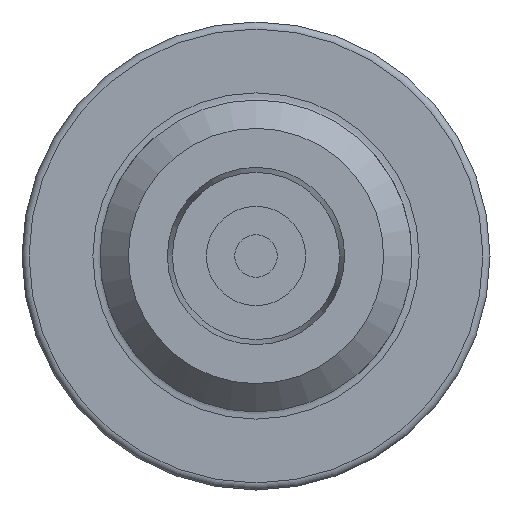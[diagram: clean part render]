
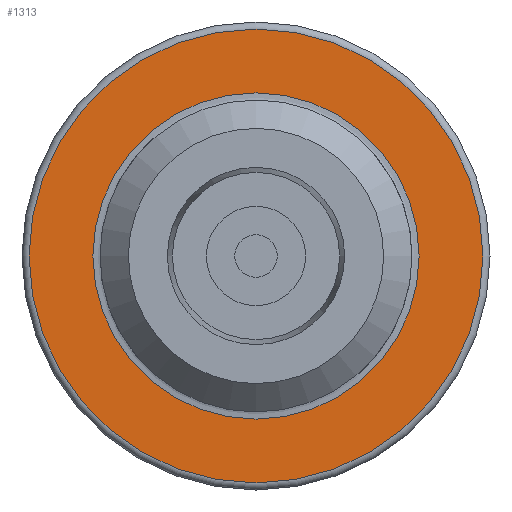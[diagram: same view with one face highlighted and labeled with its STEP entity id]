
A CAD part, front view. The second image highlights one B-rep face of the part: STEP entity #1313.
In plain terms, the highlighted planar face has unit normal (0, -1, 0).
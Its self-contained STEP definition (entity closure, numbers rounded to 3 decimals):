
#90=FACE_BOUND('',#242,.T.);
#107=PLANE('',#1517);
#154=FACE_OUTER_BOUND('',#241,.T.);
#241=EDGE_LOOP('',(#952));
#242=EDGE_LOOP('',(#953));
#495=CIRCLE('',#1515,16.);
#497=CIRCLE('',#1518,11.5);
#597=VERTEX_POINT('',#2201);
#598=VERTEX_POINT('',#2206);
#732=EDGE_CURVE('',#597,#597,#495,.T.);
#734=EDGE_CURVE('',#598,#598,#497,.T.);
#952=ORIENTED_EDGE('',*,*,#732,.F.);
#953=ORIENTED_EDGE('',*,*,#734,.F.);
#1313=ADVANCED_FACE('',(#154,#90),#107,.T.);
#1515=AXIS2_PLACEMENT_3D('',#2203,#1758,#1759);
#1517=AXIS2_PLACEMENT_3D('',#2205,#1762,#1763);
#1518=AXIS2_PLACEMENT_3D('',#2207,#1764,#1765);
#1758=DIRECTION('center_axis',(0.,1.,0.));
#1759=DIRECTION('ref_axis',(1.,0.,0.));
#1762=DIRECTION('center_axis',(0.,-1.,0.));
#1763=DIRECTION('ref_axis',(0.,0.,-1.));
#1764=DIRECTION('center_axis',(0.,-1.,0.));
#1765=DIRECTION('ref_axis',(1.,0.,0.));
#2201=CARTESIAN_POINT('',(0.,16.,-16.));
#2203=CARTESIAN_POINT('Origin',(0.,16.,0.));
#2205=CARTESIAN_POINT('Origin',(-16.5,16.,0.));
#2206=CARTESIAN_POINT('',(0.,16.,-11.5));
#2207=CARTESIAN_POINT('Origin',(0.,16.,0.));
